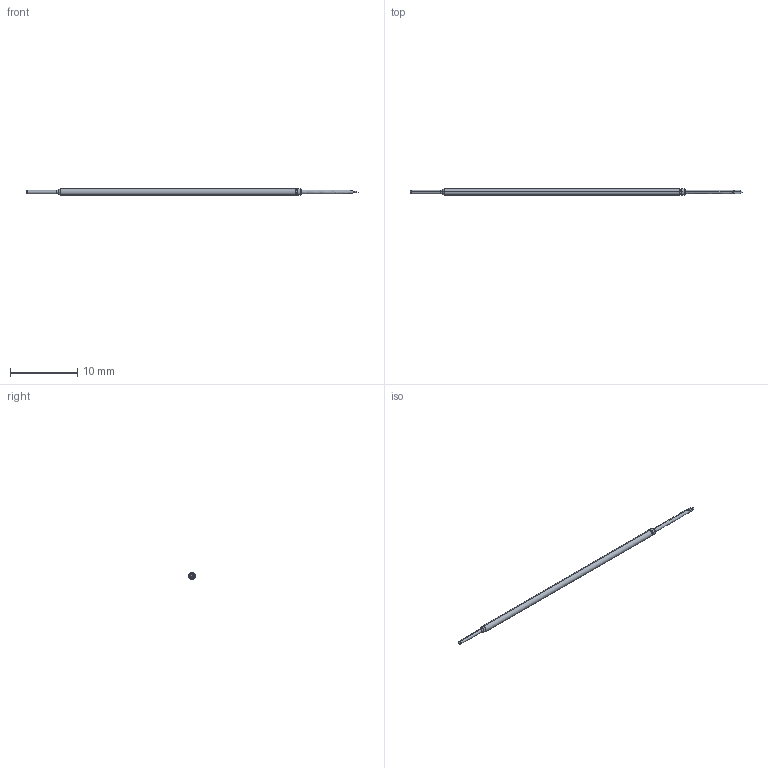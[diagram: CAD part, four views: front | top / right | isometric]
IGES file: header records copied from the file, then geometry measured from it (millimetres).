
Start section: SolidWorks IGES file using analytic representation for surfaces
Global section: file name: C:\Documents and Settings\mrumschlag\Desktop\changes\new\test\I.IGS; native system: SolidWorks 2011; preprocessor: SolidWorks 2011; author: mrumschlag; date: 110630.142317; units: inch
Bounding box: 49.28 x 0.97 x 0.97 mm (x, y, z)
Surface area: 132.2 mm2 (no closed solid volume)
Topology: 0 solids, 0 shells, 27 faces, 166 edges, 164 vertices
Faces by surface type: revolution 14, bspline 13
